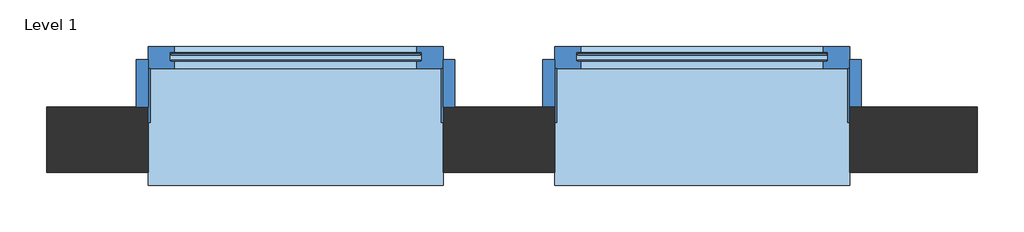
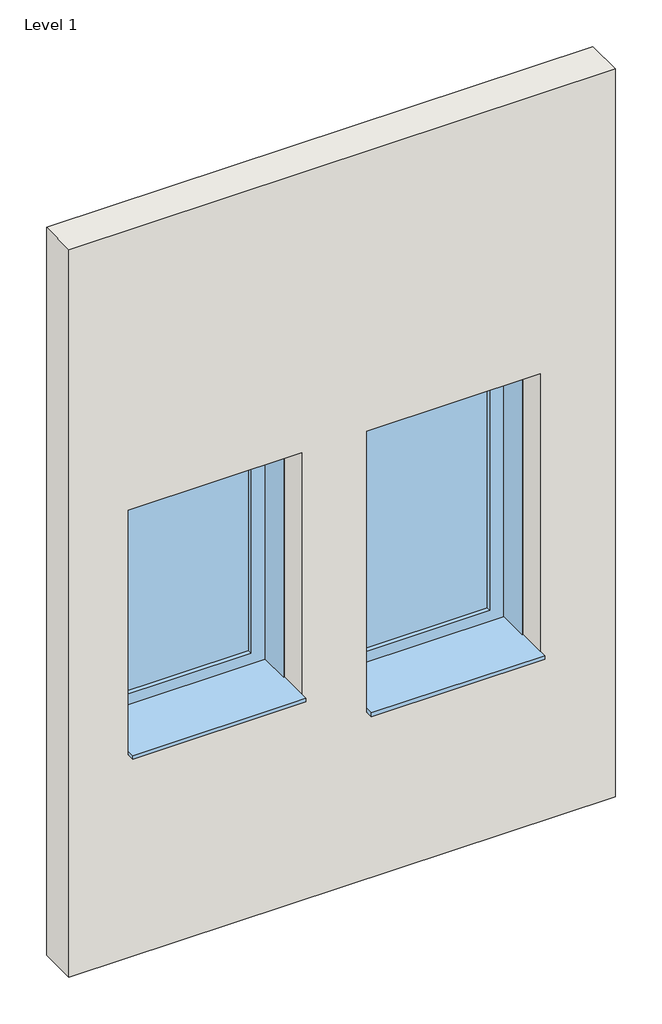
# One storey: 2 windows, 1 wall.
"""IFC4 building model written with IfcOpenShell, lengths in millimetres."""

from ifc_helpers import new_model, si_unit, frame, origin, place, context, project, spatial, polyline, outline, extrude, transform, mapped, element, save
from components import window_31_k_a_1c9fa585, window_31_k_b_aa799d78

model = new_model("IFC4")

# Units and contexts
model_context = context("Model", 3, world=origin())
ifc_project = project(units=[si_unit("LENGTHUNIT", "METRE", prefix="MILLI")], contexts=[model_context])

# Site, building, storey
site = spatial("IfcSite", under=ifc_project)
building = spatial("IfcBuilding", under=site)
storey = spatial("IfcBuildingStorey", under=building, Name="Level 1", Elevation=0.0)

# Wall
placement = place(None, origin())
element("IfcWall", 1, ObjectType="Wall 1", at=placement, inside=storey, context=model_context, shape_type="SweptSolid", body=[
    extrude(outline(polyline([(0.0, 1740.4084158), (0.0, 4580.4084158), (4000.0, 4580.4084158), (4000.0, 1740.4084158), (0.0, 1740.4084158)]), holes=[polyline([(2460.0, 2950.4084158), (1115.0, 2950.4084158), (1115.0, 2050.4084158), (2460.0, 2050.4084158), (2460.0, 2950.4084158)]), polyline([(2460.0, 4190.4084158), (915.0, 4190.4084158), (915.0, 3290.4084158), (2460.0, 3290.4084158), (2460.0, 4190.4084158)])]), frame((0.0, 2325.1237624, 0.0), z_axis=(0.0, 1.0, 0.0), x_axis=(0.0, 0.0, 1.0)), (0.0, 0.0, 1.0), 200.0),
])

# Windows
window_31_k_a_shape = window_31_k_a_1c9fa585(model_context)
element("IfcWindow", 2, ObjectType="31-K : A", at=placement, inside=storey, context=model_context, shape_type="MappedRepresentation", body=[
    mapped(window_31_k_a_shape, transform((2500.4084158, 2425.1237624, 60.0), x_axis=(1.0, 0.0, 0.0), y_axis=(0.0, 1.0, 0.0), z_axis=(0.0, 0.0, 1.0))),
])
window_31_k_b_shape = window_31_k_b_aa799d78(model_context)
element("IfcWindow", 3, ObjectType="31-K : B", at=placement, inside=storey, context=model_context, shape_type="MappedRepresentation", body=[
    mapped(window_31_k_b_shape, transform((3740.4084158, 2425.1237624, 60.0), x_axis=(1.0, 0.0, 0.0), y_axis=(0.0, 1.0, 0.0), z_axis=(0.0, 0.0, 1.0))),
])

save(model, "model.ifc")
